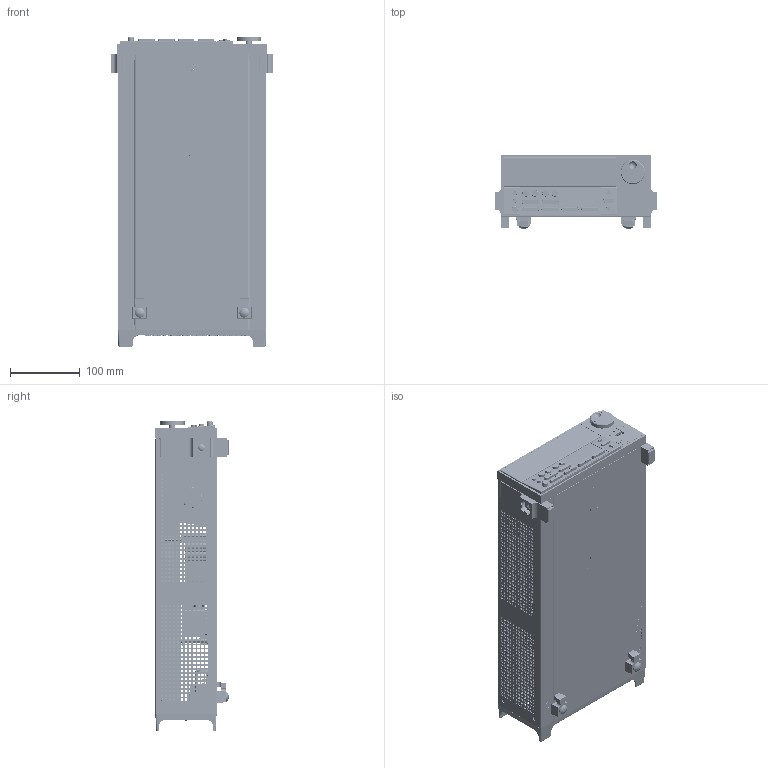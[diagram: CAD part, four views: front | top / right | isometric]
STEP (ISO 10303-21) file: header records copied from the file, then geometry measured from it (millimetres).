
FILE_DESCRIPTION((''),'2;1');
FILE_NAME('2601B_ASM','2023-07-13T13:48:52',('afergus2'),(''),'CREO PARAMETRIC BY PTC INC, 2022284','CREO PARAMETRIC BY PTC INC, 2022284','');
FILE_SCHEMA(('CONFIG_CONTROL_DESIGN','SHAPE_APPEARANCE_LAYERS_GROUPS'));
Length unit declared in the file: inch
Products named in the file (83): 2602-301; 2601B-303; 2601B-304; 2601B-303_ASM; 6-32X1-4PFH; BJ-19-5; LF-11-PURCHPART; 2602-318; 4-40X1-4PFH; FN-43-WIRELESS; 4-40X1-2PPHSEM; CC-99-1-085; 1198653; ST-166-21; 3374722-SHIELD; 3374722-POLYCARB1; 3374722_ASM; 4-40X1-4PPH; CS-368-16; CS-1179-1; CS-507; CS-1150; CS-368-26; CS-368-10; CS-724-3; CS-1209; CS-288-2; CS-1032; CS-724-5; CS-889-1; CS-724-4; 2602B-140_ASM; CS-713; CA-357-2-ASSY; CS-725; CA-358-ASSY; 2602-013-BARE; CS-715-4; SW-466; 7002-323-2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
Assembly tree (129 placements, depth 5):
  2601B_ASM
    2602-301
    2601B-303_ASM
      2601B-303
      2601B-304
    6-32X1-4PFH  x4
    BJ-19-5
    LF-11-PURCHPART
    2602-318
    4-40X1-4PFH  x9
    FN-43-WIRELESS
    4-40X1-2PPHSEM  x2
    CC-99-1-085  x2
    1198653
    ST-166-21  x4
    3374722_ASM
      3374722-SHIELD
      3374722-POLYCARB1  x2
    4-40X1-4PPH  x18
    2602B-140_ASM
      CS-368-16
      CS-1179-1  x2
      CS-507
      CS-1150
      CS-368-26
      CS-368-10
      CS-724-3
      CS-1209  x2
      CS-288-2
      CS-1032
      CS-724-5
      CS-889-1
      CS-724-4
    CS-713  x2
    CA-357-2-ASSY
    CS-725  x4
    CA-358-ASSY
    2602-130_ASM
      2602-013-BARE
      CS-715-4
      SW-466
      7002-323-2
    CC-67
    BA-52-NW
    428-319  x2
    FE-6  x2
    2601B-FRONT-PANEL_ASM
      2601A-325_ASM
        2601A-305
        2601-306
      2601-329_ASM
        2601-329
        2601-308
      2601A-315_ASM
        2601A-315
        2601-316
      2602-011-ENG
      2602-326
      SW-515-1
      2601A-313
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Bounding box: 231.65 x 105.44 x 446.33 mm (x, y, z)
Volume: 967846.4 mm3; surface area: 1313643.1 mm2
Topology: 149 solids, 194 shells, 23909 faces, 67601 edges, 45033 vertices
Faces by surface type: plane 20761, cylinder 2584, cone 346, torus 141, sphere 50, bspline 21, extrusion 6
Entity records: 867626 total; most frequent: CARTESIAN_POINT 130148, ORIENTED_EDGE 124144, DIRECTION 111939, EDGE_CURVE 62618, VECTOR 56903, LINE 56899, PRESENTATION_STYLE_ASSIGNMENT 47462, STYLED_ITEM 46634
